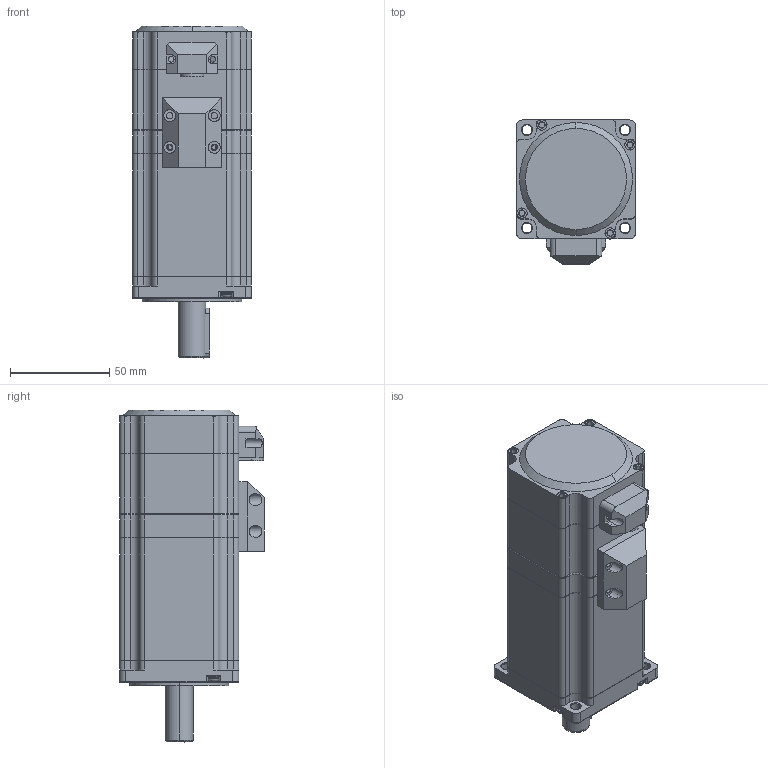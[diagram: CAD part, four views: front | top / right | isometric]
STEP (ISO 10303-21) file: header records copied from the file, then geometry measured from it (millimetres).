
FILE_DESCRIPTION (( 'STEP AP203' ), '1' );
FILE_NAME ('60CME30X-I14-BZ-M17.STEP', '2023-07-19T07:18:57', ( 'Owner' ), ( 'Organization' ), 'SwSTEP 2.0', 'SolidWorks 2018', '' );
FILE_SCHEMA (( 'CONFIG_CONTROL_DESIGN' ));
Length unit declared in the file: millimetre
Products named in the file (27): 磁钢1.5_磁钢（36-10.2-1.5）; 刹车后罩 铝块加工_后盖; 绝缘片60_60绝缘片（23-005）; 轴承 6002ZZ C0Z3（WTOO）_轴承; 32-15.2-1.2 路棠え_路棠え; 5X5X25长方键 2头圆_长方键; 60-15-13（60转子片 50齿）_60-10-13（60转子片 50齿）; 10-602-04（60HX-30.5）_60HX-30.5（60骨架 散线）; D686-050_D686-050（60-86定子装配）; 转子_685-297-1-A（60-86转子组件）; M3-77（球头螺钉 镀白锌）_M3-77（球头螺钉 镀白锌）; 16-603-6_ヶ裔; 60防尘垫编码器压块垫_37-014-1（60防尘垫 编码器压块垫）; 16-638雷赛-刹车_16-638-6（60编码器后盖半月板）; 17-601-04（60-61.5-1.8）_17-601-04（60-61.5-1.8定子金工）; 5760 八线护线套_57-8（八线护线套）; 16-021-后罩雷赛_16-021（60编码器后罩）; 60CME30X-I14-BZ-M17; 价陬; 11-685 D14_蛌粣; 65-016（60四线线路板）_65-016（60线路板四线）; 11-601-04（60HB-30.5）_60HB-30.5（60骨架）; 52-115   52-115.1(57压线块 单孔+护线套)_37-019(57压线块 单孔+护线套); 36-15.2-1.5 棠詩_棠詩; 60揤輸_60揤輸; 15-1.8ㄗ粣杶ㄘ_粣杶; 15-000（调整轴套）_轴套
Assembly tree (33 placements, depth 3):
  60CME30X-I14-BZ-M17
    16-638雷赛-刹车_16-638-6（60编码器后盖半月板）
    16-603-6_ヶ裔
    转子_685-297-1-A（60-86转子组件）
      11-685 D14_蛌粣
      轴承 6002ZZ C0Z3（WTOO）_轴承  x2
      60-15-13（60转子片 50齿）_60-10-13（60转子片 50齿）  x4
      36-15.2-1.5 棠詩_棠詩
      32-15.2-1.2 路棠え_路棠え
      磁钢1.5_磁钢（36-10.2-1.5）
      15-1.8ㄗ粣杶ㄘ_粣杶
      15-000（调整轴套）_轴套
    D686-050_D686-050（60-86定子装配）
      17-601-04（60-61.5-1.8）_17-601-04（60-61.5-1.8定子金工）
      10-602-04（60HX-30.5）_60HX-30.5（60骨架 散线）
      11-601-04（60HB-30.5）_60HB-30.5（60骨架）
      65-016（60四线线路板）_65-016（60线路板四线）
    5760 八线护线套_57-8（八线护线套）
    绝缘片60_60绝缘片（23-005）
    M3-77（球头螺钉 镀白锌）_M3-77（球头螺钉 镀白锌）  x4
    价陬
    52-115   52-115.1(57压线块 单孔+护线套)_37-019(57压线块 单孔+护线套)
    刹车后罩 铝块加工_后盖
    16-021-后罩雷赛_16-021（60编码器后罩）
    60防尘垫编码器压块垫_37-014-1（60防尘垫 编码器压块垫）
    60揤輸_60揤輸
    5X5X25长方键 2头圆_长方键
Bounding box: 60.1 x 73.05 x 167.4 mm (x, y, z)
Volume: 302511.8 mm3; surface area: 213510.7 mm2
Topology: 31 solids, 31 shells, 2404 faces, 6895 edges, 4485 vertices
Faces by surface type: plane 1074, cylinder 964, torus 207, sphere 72, cone 52, bspline 35
Entity records: 78529 total; most frequent: CARTESIAN_POINT 18584, ORIENTED_EDGE 12074, DIRECTION 11999, EDGE_CURVE 6037, AXIS2_PLACEMENT_3D 4276, VERTEX_POINT 3938, LINE 3447, VECTOR 3447
